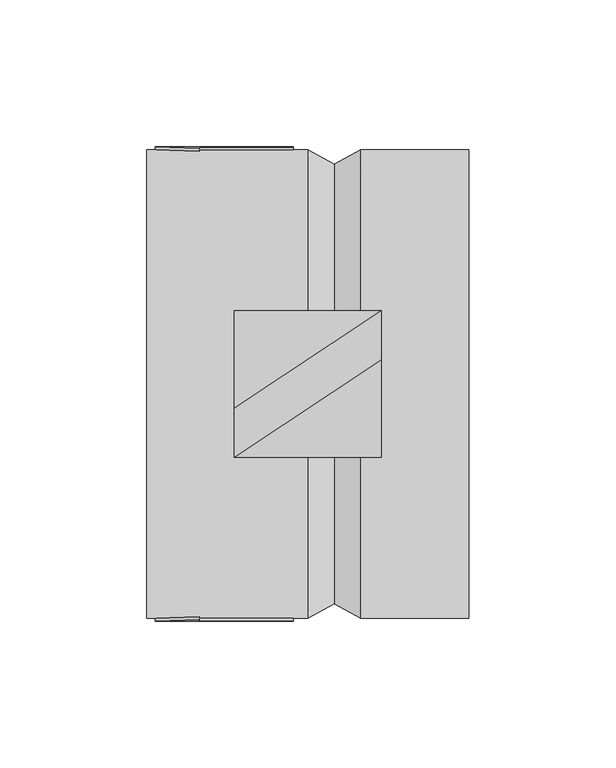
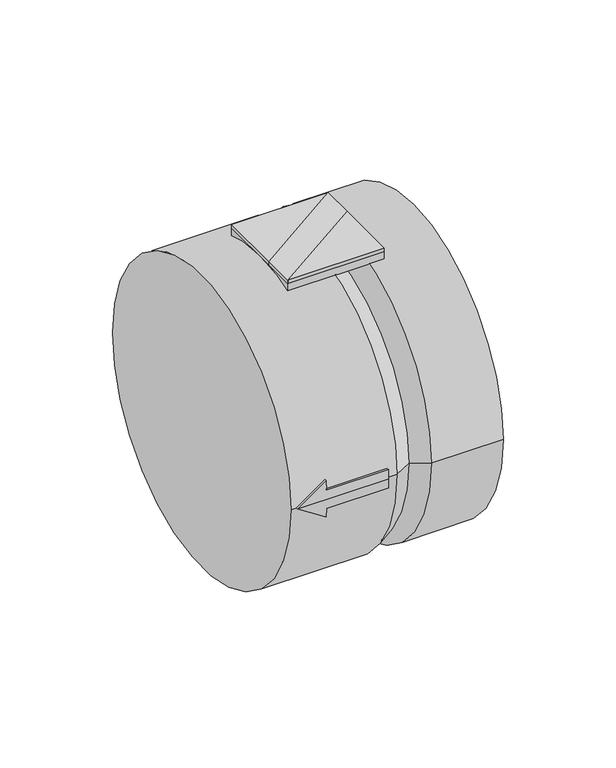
"""IFC4 building model written with IfcOpenShell, lengths in millimetres: damper geometry, KORF_Клапан_Обратный_Круглый_KOK : КОK 160."""

from ifc_helpers import new_model, si_unit, frame, origin, place, context, project, spatial, polyline, circle_curve, ellipse_curve, outline, extrude, source, transform, mapped, element, save
from ifc_brep_helpers import plane_surface, cylinder_surface, revolved_surface, advanced_brep


def damper_d0f4b42e(model_context):
    return source(origin(), model_context, "Body", "SolidModel", [
        extrude(outline(polyline([(80.0, 25.0), (80.0, 8.3333333), (30.0, -25.0), (30.0, -8.3333333), (80.0, 25.0)])), frame((0.0, 0.0, 80.0), z_axis=(0.0, 0.0, 1.0), x_axis=(1.0, 0.0, 0.0)), (0.0, 0.0, 1.0), 2.0),
        extrude(outline(polyline([(80.0, 25.0), (30.0, -8.3333333), (30.0, 25.0), (80.0, 25.0)])), frame((0.0, 0.0, 80.0), z_axis=(0.0, 0.0, 1.0), x_axis=(1.0, 0.0, 0.0)), (0.0, 0.0, 1.0), 2.0),
        extrude(outline(polyline([(30.0, -25.0), (80.0, 8.3333333), (80.0, -25.0), (30.0, -25.0)])), frame((0.0, 0.0, 80.0), z_axis=(0.0, 0.0, 1.0), x_axis=(1.0, 0.0, 0.0)), (0.0, 0.0, 1.0), 2.0),
        advanced_brep(
        [(18.0, -79.3725393, 10.0), (3.0, -80.0, 0.0), (3.0, -81.0, 0.0), (18.0, -80.3803459, 10.0), (18.0, -79.3725393, -10.0), (18.0, -80.3803459, -10.0), (18.0, -79.8435971, -5.0), (18.0, -80.8455317, -5.0), (50.0, -79.8435971, -5.0), (50.0, -80.8455317, -5.0), (50.0, -80.0, 0.0), (50.0, -79.8435971, 5.0), (50.0, -80.8455317, 5.0), (50.0, -81.0, 0.0), (18.0, -79.8435971, 5.0), (18.0, -80.8455317, 5.0)],
        [
            (0, 1, ellipse_curve(frame((3.0, 0.0, 0.0), z_axis=(0.5547001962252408, 0.0, -0.832050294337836), x_axis=(0.8320502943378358, 0.0, 0.5547001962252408)), 144.222051, 80.0)),
            (1, 2),
            (2, 3, ellipse_curve(frame((3.0, 0.0, 0.0), z_axis=(-0.5547001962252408, 0.0, 0.832050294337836), x_axis=(-0.8320502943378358, 0.0, -0.5547001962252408)), 146.0248267, 81.0)),
            (3, 0),
            (1, 4, ellipse_curve(frame((3.0, 0.0, 0.0), z_axis=(0.5547001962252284, 0.0, 0.8320502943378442), x_axis=(0.8320502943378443, 0.0, -0.5547001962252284)), 144.222051, 80.0)),
            (4, 5),
            (5, 2, ellipse_curve(frame((3.0, 0.0, 0.0), z_axis=(-0.5547001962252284, 0.0, -0.8320502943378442), x_axis=(-0.8320502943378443, 0.0, 0.5547001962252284)), 146.0248267, 81.0)),
            (4, 6, circle_curve(frame((18.0, 0.0, 0.0), z_axis=(-1.0, 0.0, 0.0), x_axis=(0.0, 1.0, 0.0)), 80.0)),
            (6, 7),
            (7, 5, circle_curve(frame((18.0, 0.0, 0.0), z_axis=(1.0, 0.0, 0.0), x_axis=(0.0, 1.0, 0.0)), 81.0)),
            (6, 8),
            (8, 9),
            (9, 7),
            (8, 10, circle_curve(frame((50.0, 0.0, 0.0), z_axis=(-1.0, 0.0, 0.0), x_axis=(0.0, 1.0, 0.0)), 80.0)),
            (10, 11, circle_curve(frame((50.0, 0.0, 0.0), z_axis=(-1.0, 0.0, 0.0), x_axis=(0.0, 1.0, 0.0)), 80.0)),
            (11, 12),
            (12, 13, circle_curve(frame((50.0, 0.0, 0.0), z_axis=(1.0, 0.0, 0.0), x_axis=(0.0, 1.0, 0.0)), 81.0)),
            (13, 9, circle_curve(frame((50.0, 0.0, 0.0), z_axis=(1.0, 0.0, 0.0), x_axis=(0.0, 1.0, 0.0)), 81.0)),
            (11, 14),
            (14, 15),
            (15, 12),
            (14, 0, circle_curve(frame((18.0, 0.0, 0.0), z_axis=(-1.0, 0.0, 0.0), x_axis=(0.0, 1.0, 0.0)), 80.0)),
            (3, 15, circle_curve(frame((18.0, 0.0, 0.0), z_axis=(1.0, 0.0, 0.0), x_axis=(0.0, 1.0, 0.0)), 81.0)),
            (1, 10),
            (2, 13),
        ],
        [
            plane_surface(frame((18.0, -82.0, 10.0), z_axis=(-0.5547001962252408, 0.0, 0.832050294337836), x_axis=(0.0, 1.0, 0.0))),
            plane_surface(frame((3.0, -82.0, 0.0), z_axis=(-0.5547001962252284, 0.0, -0.8320502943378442), x_axis=(0.0, 1.0, 0.0))),
            plane_surface(frame((18.0, -82.0, -10.0), z_axis=(1.0, 0.0, 0.0), x_axis=(0.0, 1.0, 0.0))),
            plane_surface(frame((18.0, -82.0, -5.0), z_axis=(0.0, 0.0, -1.0), x_axis=(0.0, 1.0, 0.0))),
            plane_surface(frame((50.0, -82.0, -5.0), z_axis=(1.0, 0.0, 0.0), x_axis=(0.0, 1.0, 0.0))),
            plane_surface(frame((50.0, -82.0, 5.0), z_axis=(0.0, 0.0, 1.0), x_axis=(0.0, 1.0, 0.0))),
            plane_surface(frame((18.0, -82.0, 5.0), z_axis=(1.0, 0.0, 0.0), x_axis=(0.0, 1.0, 0.0))),
            revolved_surface(polyline([(122.99999998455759, 80.0, 0.0), (-116.99999998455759, 80.0, 0.0)]), (0.0, 0.0, 0.0), (1.0, 0.0, 0.0)),
            revolved_surface(polyline([(122.99999998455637, 80.0, 0.0), (-116.99999998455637, 80.0, 0.0)]), (0.0, 0.0, 0.0), (1.0, 0.0, 0.0)),
            cylinder_surface(frame((0.0, 0.0, 0.0), z_axis=(-1.0, 0.0, 0.0), x_axis=(0.0, 1.0, 0.0)), 81.0),
        ],
        [
            (0, [[1, 2, 3, 4]]),
            (1, [[5, 6, 7, -2]]),
            (2, [[8, 9, 10, -6]]),
            (3, [[11, 12, 13, -9]]),
            (4, [[14, 15, 16, 17, 18, -12]]),
            (5, [[19, 20, 21, -16]]),
            (6, [[22, -4, 23, -20]]),
            (7, [[24, -14, -11, -8, -5]]),
            (8, [[-24, -1, -22, -19, -15]]),
            (9, [[25, -17, -21, -23, -3]]),
            (9, [[-25, -7, -10, -13, -18]]),
        ],
    ),
        advanced_brep(
        [(3.0, 80.0, 0.0), (18.0, 79.3725393, 10.0), (18.0, 80.3803459, 10.0), (3.0, 81.0, 0.0), (18.0, 79.3725393, -10.0), (18.0, 80.3803459, -10.0), (18.0, 79.8435971, -5.0), (18.0, 80.8455317, -5.0), (50.0, 79.8435971, -5.0), (50.0, 80.8455317, -5.0), (50.0, 80.0, 0.0), (50.0, 81.0, 0.0), (50.0, 80.8455317, 5.0), (50.0, 79.8435971, 5.0), (18.0, 79.8435971, 5.0), (18.0, 80.8455317, 5.0)],
        [
            (0, 1, ellipse_curve(frame((3.0, 0.0, 0.0), z_axis=(0.5547001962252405, 0.0, -0.8320502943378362), x_axis=(0.8320502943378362, 0.0, 0.5547001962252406)), 144.222051, 80.0)),
            (1, 2),
            (2, 3, ellipse_curve(frame((3.0, 0.0, 0.0), z_axis=(-0.5547001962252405, 0.0, 0.8320502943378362), x_axis=(-0.8320502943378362, 0.0, -0.5547001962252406)), 146.0248267, 81.0)),
            (3, 0),
            (4, 0, ellipse_curve(frame((3.0, 0.0, 0.0), z_axis=(0.554700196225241, 0.0, 0.8320502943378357), x_axis=(0.8320502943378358, 0.0, -0.554700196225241)), 144.222051, 80.0)),
            (3, 5, ellipse_curve(frame((3.0, 0.0, 0.0), z_axis=(-0.554700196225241, 0.0, -0.8320502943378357), x_axis=(-0.8320502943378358, 0.0, 0.554700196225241)), 146.0248267, 81.0)),
            (5, 4),
            (6, 4, circle_curve(frame((18.0, 0.0, 0.0), z_axis=(-1.0, 0.0, 0.0), x_axis=(0.0, 1.0, 0.0)), 80.0)),
            (5, 7, circle_curve(frame((18.0, 0.0, 0.0), z_axis=(1.0, 0.0, 0.0), x_axis=(0.0, 1.0, 0.0)), 81.0)),
            (7, 6),
            (8, 6),
            (7, 9),
            (9, 8),
            (10, 8, circle_curve(frame((50.0, 0.0, 0.0), z_axis=(-1.0, 0.0, 0.0), x_axis=(0.0, 1.0, 0.0)), 80.0)),
            (9, 11, circle_curve(frame((50.0, 0.0, 0.0), z_axis=(1.0, 0.0, 0.0), x_axis=(0.0, 1.0, 0.0)), 81.0)),
            (11, 12, circle_curve(frame((50.0, 0.0, 0.0), z_axis=(1.0, 0.0, 0.0), x_axis=(0.0, 1.0, 0.0)), 81.0)),
            (12, 13),
            (13, 10, circle_curve(frame((50.0, 0.0, 0.0), z_axis=(-1.0, 0.0, 0.0), x_axis=(0.0, 1.0, 0.0)), 80.0)),
            (14, 13),
            (12, 15),
            (15, 14),
            (1, 14, circle_curve(frame((18.0, 0.0, 0.0), z_axis=(-1.0, 0.0, 0.0), x_axis=(0.0, 1.0, 0.0)), 80.0)),
            (15, 2, circle_curve(frame((18.0, 0.0, 0.0), z_axis=(1.0, 0.0, 0.0), x_axis=(0.0, 1.0, 0.0)), 81.0)),
            (10, 0),
            (11, 3),
        ],
        [
            plane_surface(frame((18.0, 78.0, 10.0), z_axis=(-0.5547001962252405, 0.0, 0.8320502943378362), x_axis=(0.0, 1.0, 0.0))),
            plane_surface(frame((3.0, 78.0, 0.0), z_axis=(-0.554700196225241, 0.0, -0.8320502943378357), x_axis=(0.0, 1.0, 0.0))),
            plane_surface(frame((18.0, 78.0, -10.0), z_axis=(1.0, 0.0, 0.0), x_axis=(0.0, 1.0, 0.0))),
            plane_surface(frame((18.0, 78.0, -5.0), z_axis=(0.0, 0.0, -1.0), x_axis=(0.0, 1.0, 0.0))),
            plane_surface(frame((50.0, 78.0, -5.0), z_axis=(1.0, 0.0, 0.0), x_axis=(0.0, 1.0, 0.0))),
            plane_surface(frame((50.0, 78.0, 5.0), z_axis=(0.0, 0.0, 1.0), x_axis=(0.0, 1.0, 0.0))),
            plane_surface(frame((18.0, 78.0, 5.0), z_axis=(1.0, 0.0, 0.0), x_axis=(0.0, 1.0, 0.0))),
            revolved_surface(polyline([(122.99999998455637, 80.0, 0.0), (-116.99999998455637, 80.0, 0.0)]), (0.0, 0.0, 0.0), (1.0, 0.0, 0.0)),
            revolved_surface(polyline([(122.99999998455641, 80.0, 0.0), (-116.99999998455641, 80.0, 0.0)]), (0.0, 0.0, 0.0), (1.0, 0.0, 0.0)),
            cylinder_surface(frame((0.0, 0.0, 0.0), z_axis=(-1.0, 0.0, 0.0), x_axis=(0.0, 1.0, 0.0)), 81.0),
        ],
        [
            (0, [[1, 2, 3, 4]]),
            (1, [[5, -4, 6, 7]]),
            (2, [[8, -7, 9, 10]]),
            (3, [[11, -10, 12, 13]]),
            (4, [[14, -13, 15, 16, 17, 18]]),
            (5, [[19, -17, 20, 21]]),
            (6, [[22, -21, 23, -2]]),
            (7, [[24, -5, -8, -11, -14]]),
            (8, [[-24, -18, -19, -22, -1]]),
            (9, [[25, -3, -23, -20, -16]]),
            (9, [[-25, -15, -12, -9, -6]]),
        ],
    ),
        advanced_brep(
        [(110.0, -80.0, 0.0), (110.0, 80.0, 0.0), (0.0, -80.0, 0.0), (0.0, 80.0, 0.0), (73.0, -80.0, 0.0), (73.0, 80.0, 0.0), (55.0, 80.0, 0.0), (55.0, -80.0, 0.0), (64.0, 75.0, 0.0), (64.0, -75.0, 0.0)],
        [
            (0, 1, circle_curve(frame((110.0, 0.0, 0.0), z_axis=(1.0, 0.0, 0.0), x_axis=(0.0, 1.0, 0.0)), 80.0)),
            (1, 0, circle_curve(frame((110.0, 0.0, 0.0), z_axis=(1.0, 0.0, 0.0), x_axis=(0.0, 1.0, 0.0)), 80.0)),
            (2, 3, circle_curve(frame((0.0, 0.0, 0.0), z_axis=(-1.0, 0.0, 0.0), x_axis=(0.0, 1.0, 0.0)), 80.0)),
            (3, 2, circle_curve(frame((0.0, 0.0, 0.0), z_axis=(-1.0, 0.0, 0.0), x_axis=(0.0, 1.0, 0.0)), 80.0)),
            (0, 4),
            (4, 5, circle_curve(frame((73.0, 0.0, 0.0), z_axis=(1.0, 0.0, 0.0), x_axis=(0.0, 1.0, 0.0)), 80.0)),
            (5, 1),
            (3, 6),
            (6, 7, circle_curve(frame((55.0, 0.0, 0.0), z_axis=(-1.0, 0.0, 0.0), x_axis=(0.0, 1.0, 0.0)), 80.0)),
            (7, 2),
            (5, 4, circle_curve(frame((73.0, 0.0, 0.0), z_axis=(1.0, 0.0, 0.0), x_axis=(0.0, 1.0, 0.0)), 80.0)),
            (7, 6, circle_curve(frame((55.0, 0.0, 0.0), z_axis=(-1.0, 0.0, 0.0), x_axis=(0.0, 1.0, 0.0)), 80.0)),
            (6, 8),
            (8, 9, circle_curve(frame((64.0, 0.0, 0.0), z_axis=(-1.0, 0.0, 0.0), x_axis=(0.0, -1.0, 0.0)), 75.0)),
            (9, 7),
            (8, 5),
            (4, 9),
            (9, 8, circle_curve(frame((64.0, 0.0, 0.0), z_axis=(-1.0, 0.0, 0.0), x_axis=(0.0, 1.0, 0.0)), 75.0)),
        ],
        [
            plane_surface(frame((110.0, 80.0, 0.0), z_axis=(1.0, 0.0, 0.0), x_axis=(0.0, 0.0, 1.0))),
            plane_surface(frame((0.0, 80.0, 0.0), z_axis=(-1.0, 0.0, 0.0), x_axis=(0.0, 0.0, -1.0))),
            cylinder_surface(frame((0.0, 0.0, 0.0), z_axis=(1.0, 0.0, 0.0), x_axis=(0.0, 1.0, 0.0)), 80.0),
            revolved_surface(polyline([(55.0, -80.0, 0.0), (64.0, -75.0, 0.0)]), (0.0, 0.0, 0.0), (1.0, 0.0, 0.0)),
            revolved_surface(polyline([(64.0, -75.0, 0.0), (73.0, -80.0, 0.0)]), (0.0, 0.0, 0.0), (1.0, 0.0, 0.0)),
            revolved_surface(polyline([(55.0, 80.0, 0.0), (64.0, 75.0, 0.0)]), (0.0, 0.0, 0.0), (1.0, 0.0, 0.0)),
            revolved_surface(polyline([(64.0, 75.0, 0.0), (73.0, 80.0, 0.0)]), (0.0, 0.0, 0.0), (1.0, 0.0, 0.0)),
        ],
        [
            (0, [[1, 2]]),
            (1, [[3, 4]]),
            (2, [[-1, 5, 6, 7]]),
            (2, [[-4, 8, 9, 10]]),
            (2, [[-2, -7, 11, -5]]),
            (2, [[-3, -10, 12, -8]]),
            (3, [[13, 14, 15, -9]]),
            (4, [[-14, 16, -6, 17]]),
            (5, [[-13, -12, -15, 18]]),
            (6, [[-16, -18, -17, -11]]),
        ],
    ),
        advanced_brep(
        [(30.0, 25.0, 75.9934208), (80.0, 25.0, 75.9934208), (80.0, 0.0, 80.0), (80.0, -25.0, 75.9934208), (30.0, -25.0, 75.9934208), (30.0, 0.0, 80.0), (80.0, 25.0, 80.0), (30.0, 25.0, 80.0), (30.0, -25.0, 80.0), (80.0, -25.0, 80.0)],
        [
            (0, 1),
            (1, 2, circle_curve(frame((80.0, 0.0, 0.0), z_axis=(1.0, 0.0, 0.0), x_axis=(0.0, 1.0, 0.0)), 80.0)),
            (2, 3, circle_curve(frame((80.0, 0.0, 0.0), z_axis=(1.0, 0.0, 0.0), x_axis=(0.0, 1.0, 0.0)), 80.0)),
            (3, 4),
            (4, 5, circle_curve(frame((30.0, 0.0, 0.0), z_axis=(-1.0, 0.0, 0.0), x_axis=(0.0, 1.0, 0.0)), 80.0)),
            (5, 0, circle_curve(frame((30.0, 0.0, 0.0), z_axis=(-1.0, 0.0, 0.0), x_axis=(0.0, 1.0, 0.0)), 80.0)),
            (6, 7),
            (7, 5),
            (5, 8),
            (8, 9),
            (9, 2),
            (2, 6),
            (6, 1),
            (0, 7),
            (4, 8),
            (3, 9),
        ],
        [
            revolved_surface(polyline([(80.0, 80.0, 0.0), (30.0, 80.0, 0.0)]), (0.0, 0.0, 0.0), (1.0, 0.0, 0.0)),
            plane_surface(frame((30.0, 25.0, 80.0), z_axis=(0.0, 0.0, 1.0), x_axis=(-1.0, 0.0, 0.0))),
            plane_surface(frame((80.0, 25.0, 80.0), z_axis=(0.0, 1.0, 0.0), x_axis=(0.0, 0.0, -1.0))),
            plane_surface(frame((30.0, 25.0, 80.0), z_axis=(-1.0, 0.0, 0.0), x_axis=(0.0, 0.0, -1.0))),
            plane_surface(frame((30.0, -25.0, 80.0), z_axis=(0.0, -1.0, 0.0), x_axis=(0.0, 0.0, -1.0))),
            plane_surface(frame((80.0, -25.0, 80.0), z_axis=(1.0, 0.0, 0.0), x_axis=(0.0, 0.0, -1.0))),
        ],
        [
            (0, [[1, 2, 3, 4, 5, 6]]),
            (1, [[7, 8, 9, 10, 11, 12]]),
            (2, [[-7, 13, -1, 14]]),
            (3, [[-8, -14, -6]]),
            (3, [[-9, -5, 15]]),
            (4, [[-10, -15, -4, 16]]),
            (5, [[-11, -16, -3]]),
            (5, [[-12, -2, -13]]),
        ],
    ),
    ])


if __name__ == "__main__":
    model = new_model("IFC4")
    model_context = context("Model", 3, world=origin())
    ifc_project = project(units=[si_unit("LENGTHUNIT", "METRE", prefix="MILLI")], contexts=[model_context])
    site = spatial("IfcSite", under=ifc_project)
    building = spatial("IfcBuilding", under=site)
    placement = place(None, origin())
    damper_shape = damper_d0f4b42e(model_context)
    element("IfcDamper", 1, ObjectType="KORF_Клапан_Обратный_Круглый_KOK : КОK 160", at=placement, inside=building, context=model_context, shape_type="MappedRepresentation", body=[
        mapped(damper_shape, transform((0.0, 0.0, 0.0), x_axis=(1.0, 0.0, 0.0), y_axis=(0.0, 1.0, 0.0), z_axis=(0.0, 0.0, 1.0))),
    ])
    save(model, "model.ifc")
